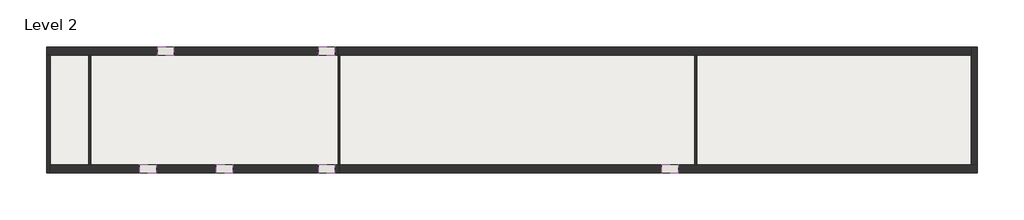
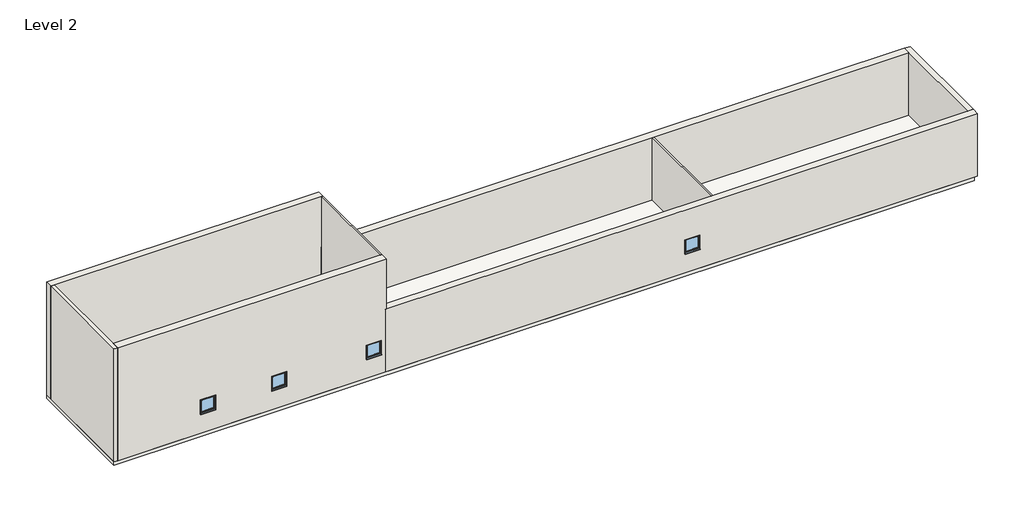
# One storey: 9 walls, 6 windows, 1 slab.
"""IFC4 building model written with IfcOpenShell, lengths in millimetres."""

from ifc_helpers import new_model, si_unit, frame, origin, place, context, project, spatial, polyline, outline, extrude, faceted_brep, transform, mapped, element, save
from components import windows_sgl_plain_910x910mm_e463b34e

model = new_model("IFC4")

# Units and contexts
model_context = context("Model", 3, world=origin())
ifc_project = project(units=[si_unit("LENGTHUNIT", "METRE", prefix="MILLI")], contexts=[model_context])

# Site, building, storey
site = spatial("IfcSite", under=ifc_project)
building = spatial("IfcBuilding", under=site)
storey = spatial("IfcBuildingStorey", under=building, Name="Level 2", Elevation=8000.0)

# Slab
placement = place(None, origin())
element("IfcSlab", 1, ObjectType="Floor-Upper_160mmConc-CorusComFlor51", at=placement, inside=storey, context=model_context, shape_type="SweptSolid", body=[
    extrude(outline(polyline([(48002.862776, 6252.2155732), (48002.862776, -787.7844268), (-3888.387224, -787.7844268), (-3888.387224, 6252.2155732), (48002.862776, 6252.2155732)])), frame((0.0, 0.0, 7789.0), z_axis=(0.0, 0.0, 1.0), x_axis=(1.0, 0.0, 0.0)), (0.0, 0.0, 1.0), 211.0),
])

# Walls
element("IfcWall", 2, ObjectType="Wall-Concrete_440blk", at=placement, inside=storey, context=model_context, shape_type="Brep", body=[
    faceted_brep([(-3888.387224, 5812.2155732, 8000.0), (-3673.387224, 5812.2155732, 8000.0), (-1523.387224, 5812.2155732, 8000.0), (-1423.387224, 5812.2155732, 8000.0), (12411.612776, 5812.2155732, 8000.0), (12411.612776, 5812.2155732, 12000.0), (12526.612776, 5812.2155732, 12000.0), (12526.612776, 5812.2155732, 15200.0), (12426.612776, 5812.2155732, 15200.0), (-3673.387224, 5812.2155732, 15200.0), (-3888.387224, 5812.2155732, 15200.0), (11326.612776, 5812.2155732, 10110.0), (12236.612776, 5812.2155732, 10110.0), (12236.612776, 5812.2155732, 9200.0), (11326.612776, 5812.2155732, 9200.0), (2326.612776, 5812.2155732, 10110.0), (3236.612776, 5812.2155732, 10110.0), (3236.612776, 5812.2155732, 9200.0), (2326.612776, 5812.2155732, 9200.0), (-3888.387224, 6252.2155732, 8000.0), (-3888.387224, 6252.2155732, 15200.0), (12526.612776, 6252.2155732, 15200.0), (12526.612776, 6252.2155732, 12000.0), (12411.612776, 6252.2155732, 12000.0), (12411.612776, 6252.2155732, 8000.0), (11326.612776, 6252.2155732, 10110.0), (11326.612776, 6252.2155732, 9200.0), (12236.612776, 6252.2155732, 9200.0), (12236.612776, 6252.2155732, 10110.0), (2326.612776, 6252.2155732, 10110.0), (2326.612776, 6252.2155732, 9200.0), (3236.612776, 6252.2155732, 9200.0), (3236.612776, 6252.2155732, 10110.0)], [[[0, 1, 2, 3, 4, 5, 6, 7, 8, 9, 10], [11, 12, 13, 14], [15, 16, 17, 18]], [[19, 20, 21, 22, 23, 24], [25, 26, 27, 28], [29, 30, 31, 32]], [[4, 3, 2, 1, 0, 19, 24]], [[10, 9, 8, 7, 21, 20]], [[0, 10, 20, 19]], [[26, 25, 11, 14]], [[27, 26, 14, 13]], [[28, 27, 13, 12]], [[25, 28, 12, 11]], [[30, 29, 15, 18]], [[31, 30, 18, 17]], [[32, 31, 17, 16]], [[29, 32, 16, 15]], [[5, 4, 24, 23]], [[22, 6, 5, 23]], [[7, 6, 22, 21]]]),
])
element("IfcWall", 3, ObjectType="Wall-Concrete_440blk", at=placement, inside=storey, context=model_context, shape_type="Brep", body=[
    faceted_brep([(48187.862776, -347.7844268, 8000.0), (47850.362776, -347.7844268, 8000.0), (32476.612776, -347.7844268, 8000.0), (32376.612776, -347.7844268, 8000.0), (12526.612776, -347.7844268, 8000.0), (12476.612776, -347.7844268, 8000.0), (12476.612776, -347.7844268, 12000.0), (12526.612776, -347.7844268, 12000.0), (32376.612776, -347.7844268, 12000.0), (32476.612776, -347.7844268, 12000.0), (47850.362776, -347.7844268, 12000.0), (48187.862776, -347.7844268, 12000.0), (31450.362776, -347.7844268, 10110.0), (30540.362776, -347.7844268, 10110.0), (30540.362776, -347.7844268, 9200.0), (31450.362776, -347.7844268, 9200.0), (48187.862776, -787.7844268, 8000.0), (48187.862776, -787.7844268, 12000.0), (12526.612776, -787.7844268, 12000.0), (12476.612776, -787.7844268, 12000.0), (12476.612776, -787.7844268, 8000.0), (31450.362776, -787.7844268, 10110.0), (31450.362776, -787.7844268, 9200.0), (30540.362776, -787.7844268, 9200.0), (30540.362776, -787.7844268, 10110.0)], [[[0, 1, 2, 3, 4, 5, 6, 7, 8, 9, 10, 11], [12, 13, 14, 15]], [[16, 17, 18, 19, 20], [21, 22, 23, 24]], [[5, 4, 3, 2, 1, 0, 16, 20]], [[6, 5, 20, 19]], [[11, 10, 9, 8, 7, 6, 19, 18, 17]], [[0, 11, 17, 16]], [[22, 21, 12, 15]], [[23, 22, 15, 14]], [[24, 23, 14, 13]], [[21, 24, 13, 12]]]),
])
element("IfcWall", 4, ObjectType="Wall-Concrete_440blk", at=placement, inside=storey, context=model_context, shape_type="Brep", body=[
    faceted_brep([(12411.612776, 5812.2155732, 8000.0), (12426.612776, 5812.2155732, 8000.0), (12526.612776, 5812.2155732, 8000.0), (32376.612776, 5812.2155732, 8000.0), (32476.612776, 5812.2155732, 8000.0), (47850.362776, 5812.2155732, 8000.0), (47850.362776, 5812.2155732, 12000.0), (32476.612776, 5812.2155732, 12000.0), (32376.612776, 5812.2155732, 12000.0), (12526.612776, 5812.2155732, 12000.0), (12411.612776, 5812.2155732, 12000.0), (12411.612776, 6252.2155732, 8000.0), (12411.612776, 6252.2155732, 12000.0), (12526.612776, 6252.2155732, 12000.0), (47850.362776, 6252.2155732, 12000.0), (47850.362776, 6252.2155732, 8000.0)], [[[0, 1, 2, 3, 4, 5, 6, 7, 8, 9, 10]], [[11, 12, 13, 14, 15]], [[5, 4, 3, 2, 1, 0, 11, 15]], [[10, 9, 8, 7, 6, 14, 13, 12]], [[0, 10, 12, 11]], [[6, 5, 15, 14]]]),
])
element("IfcWall", 5, ObjectType="Wall-Concrete_440blk", at=placement, inside=storey, context=model_context, shape_type="Brep", body=[
    faceted_brep([(12476.612776, -347.7844268, 8000.0), (12426.612776, -347.7844268, 8000.0), (-1423.387224, -347.7844268, 8000.0), (-1523.387224, -347.7844268, 8000.0), (-3673.387224, -347.7844268, 8000.0), (-3673.387224, -347.7844268, 15200.0), (12426.612776, -347.7844268, 15200.0), (12526.612776, -347.7844268, 15200.0), (12526.612776, -347.7844268, 12000.0), (12476.612776, -347.7844268, 12000.0), (12236.612776, -347.7844268, 10110.0), (11326.612776, -347.7844268, 10110.0), (11326.612776, -347.7844268, 9200.0), (12236.612776, -347.7844268, 9200.0), (6526.612776, -347.7844268, 10110.0), (5616.612776, -347.7844268, 10110.0), (5616.612776, -347.7844268, 9200.0), (6526.612776, -347.7844268, 9200.0), (2236.612776, -347.7844268, 10110.0), (1326.612776, -347.7844268, 10110.0), (1326.612776, -347.7844268, 9200.0), (2236.612776, -347.7844268, 9200.0), (12476.612776, -787.7844268, 8000.0), (12476.612776, -787.7844268, 12000.0), (12526.612776, -787.7844268, 12000.0), (12526.612776, -787.7844268, 15200.0), (-3673.387224, -787.7844268, 15200.0), (-3673.387224, -787.7844268, 8000.0), (12236.612776, -787.7844268, 10110.0), (12236.612776, -787.7844268, 9200.0), (11326.612776, -787.7844268, 9200.0), (11326.612776, -787.7844268, 10110.0), (6526.612776, -787.7844268, 10110.0), (6526.612776, -787.7844268, 9200.0), (5616.612776, -787.7844268, 9200.0), (5616.612776, -787.7844268, 10110.0), (2236.612776, -787.7844268, 10110.0), (2236.612776, -787.7844268, 9200.0), (1326.612776, -787.7844268, 9200.0), (1326.612776, -787.7844268, 10110.0)], [[[0, 1, 2, 3, 4, 5, 6, 7, 8, 9], [10, 11, 12, 13], [14, 15, 16, 17], [18, 19, 20, 21]], [[22, 23, 24, 25, 26, 27], [28, 29, 30, 31], [32, 33, 34, 35], [36, 37, 38, 39]], [[4, 3, 2, 1, 0, 22, 27]], [[7, 6, 5, 26, 25]], [[5, 4, 27, 26]], [[28, 31, 11, 10]], [[31, 30, 12, 11]], [[30, 29, 13, 12]], [[29, 28, 10, 13]], [[32, 35, 15, 14]], [[35, 34, 16, 15]], [[34, 33, 17, 16]], [[33, 32, 14, 17]], [[36, 39, 19, 18]], [[39, 38, 20, 19]], [[38, 37, 21, 20]], [[37, 36, 18, 21]], [[0, 9, 23, 22]], [[8, 24, 23, 9]], [[8, 7, 25, 24]]]),
])
element("IfcWall", 6, ObjectType="Wall-Ext_215Bwk", at=placement, inside=storey, context=model_context, shape_type="Brep", body=[
    faceted_brep([(-3673.387224, -787.7844268, 8000.0), (-3673.387224, -347.7844268, 8000.0), (-3673.387224, 5812.2155732, 8000.0), (-3673.387224, 5812.2155732, 15200.0), (-3673.387224, -347.7844268, 15200.0), (-3673.387224, -787.7844268, 15200.0), (-3888.387224, -787.7844268, 8000.0), (-3888.387224, -787.7844268, 15200.0), (-3888.387224, 5812.2155732, 15200.0), (-3888.387224, 5812.2155732, 8000.0)], [[[0, 1, 2, 3, 4, 5]], [[6, 7, 8, 9]], [[2, 1, 0, 6, 9]], [[5, 4, 3, 8, 7]], [[0, 5, 7, 6]], [[3, 2, 9, 8]]]),
])
element("IfcWall", 7, ObjectType="Wall-Ext_35Rsc-50Air-100Ins-140Blk-12P", at=placement, inside=storey, context=model_context, shape_type="Brep", body=[
    faceted_brep([(47850.362776, 6252.2155732, 8000.0), (47850.362776, 5812.2155732, 8000.0), (47850.362776, -347.7844268, 8000.0), (47850.362776, -347.7844268, 12000.0), (47850.362776, 5812.2155732, 12000.0), (47850.362776, 6252.2155732, 12000.0), (48187.862776, 6252.2155732, 8000.0), (48187.862776, 6252.2155732, 12000.0), (48187.862776, -347.7844268, 12000.0), (48187.862776, -347.7844268, 8000.0)], [[[0, 1, 2, 3, 4, 5]], [[6, 7, 8, 9]], [[2, 1, 0, 6, 9]], [[5, 4, 3, 8, 7]], [[0, 5, 7, 6]], [[3, 2, 9, 8]]]),
])
element("IfcWall", 8, ObjectType="Wall-Partn_12P-75Std-12P", at=placement, inside=storey, context=model_context, shape_type="SweptSolid", body=[
    extrude(outline(polyline([(-1523.387224, -347.7844268), (-1523.387224, 5812.2155732), (-1423.387224, 5812.2155732), (-1423.387224, -347.7844268), (-1523.387224, -347.7844268)])), frame((0.0, 0.0, 8000.0), z_axis=(0.0, 0.0, 1.0), x_axis=(1.0, 0.0, 0.0)), (0.0, 0.0, 1.0), 4000.0),
])
element("IfcWall", 9, ObjectType="Wall-Partn_12P-75Std-12P", at=placement, inside=storey, context=model_context, shape_type="Brep", body=[
    faceted_brep([(12526.612776, -347.7844268, 15200.0), (12526.612776, -347.7844268, 12000.0), (12526.612776, -347.7844268, 8000.0), (12526.612776, 5812.2155732, 8000.0), (12526.612776, 5812.2155732, 15200.0), (12426.612776, -347.7844268, 8000.0), (12426.612776, -347.7844268, 15200.0), (12426.612776, 5812.2155732, 15200.0), (12426.612776, 5812.2155732, 8000.0), (12476.612776, -347.7844268, 8000.0)], [[[0, 1, 2, 3, 4]], [[5, 6, 7, 8]], [[3, 2, 9, 5, 8]], [[0, 4, 7, 6]], [[4, 3, 8, 7]], [[0, 6, 5, 9, 2, 1]]]),
])
element("IfcWall", 10, ObjectType="Wall-Partn_12P-75Std-12P", at=placement, inside=storey, context=model_context, shape_type="SweptSolid", body=[
    extrude(outline(polyline([(32476.612776, 5812.2155732), (32476.612776, -347.7844268), (32376.612776, -347.7844268), (32376.612776, 5812.2155732), (32476.612776, 5812.2155732)])), frame((0.0, 0.0, 8000.0), z_axis=(0.0, 0.0, 1.0), x_axis=(1.0, 0.0, 0.0)), (0.0, 0.0, 1.0), 4000.0),
])

# Windows
windows_sgl_plain_910x910mm_shape = windows_sgl_plain_910x910mm_e463b34e(model_context)
element("IfcWindow", 11, ObjectType="Windows_Sgl_Plain : 910x910mm", at=placement, inside=storey, context=model_context, shape_type="MappedRepresentation", body=[
    mapped(windows_sgl_plain_910x910mm_shape, transform((11781.612776, -559.327859, 8000.0), x_axis=(-1.0, 0.0, 0.0), y_axis=(0.0, -1.0, 0.0), z_axis=(0.0, 0.0, 1.0))),
])
element("IfcWindow", 12, ObjectType="Windows_Sgl_Plain : 910x910mm", at=placement, inside=storey, context=model_context, shape_type="MappedRepresentation", body=[
    mapped(windows_sgl_plain_910x910mm_shape, transform((6071.612776, -559.327859, 8000.0), x_axis=(-1.0, 0.0, 0.0), y_axis=(0.0, -1.0, 0.0), z_axis=(0.0, 0.0, 1.0))),
])
element("IfcWindow", 13, ObjectType="Windows_Sgl_Plain : 910x910mm", at=placement, inside=storey, context=model_context, shape_type="MappedRepresentation", body=[
    mapped(windows_sgl_plain_910x910mm_shape, transform((1781.612776, -559.327859, 8000.0), x_axis=(-1.0, 0.0, 0.0), y_axis=(0.0, -1.0, 0.0), z_axis=(0.0, 0.0, 1.0))),
])
element("IfcWindow", 14, ObjectType="Windows_Sgl_Plain : 910x910mm", at=placement, inside=storey, context=model_context, shape_type="MappedRepresentation", body=[
    mapped(windows_sgl_plain_910x910mm_shape, transform((30995.362776, -559.327859, 8000.0), x_axis=(-1.0, 0.0, 0.0), y_axis=(0.0, -1.0, 0.0), z_axis=(0.0, 0.0, 1.0))),
])
element("IfcWindow", 15, ObjectType="Windows_Sgl_Plain : 910x910mm", at=placement, inside=storey, context=model_context, shape_type="MappedRepresentation", body=[
    mapped(windows_sgl_plain_910x910mm_shape, transform((11781.612776, 6023.7590054, 8000.0), x_axis=(1.0, 0.0, 0.0), y_axis=(0.0, 1.0, 0.0), z_axis=(0.0, 0.0, 1.0))),
])
element("IfcWindow", 16, ObjectType="Windows_Sgl_Plain : 910x910mm", at=placement, inside=storey, context=model_context, shape_type="MappedRepresentation", body=[
    mapped(windows_sgl_plain_910x910mm_shape, transform((2781.612776, 6023.7590054, 8000.0), x_axis=(1.0, 0.0, 0.0), y_axis=(0.0, 1.0, 0.0), z_axis=(0.0, 0.0, 1.0))),
])

save(model, "model.ifc")
